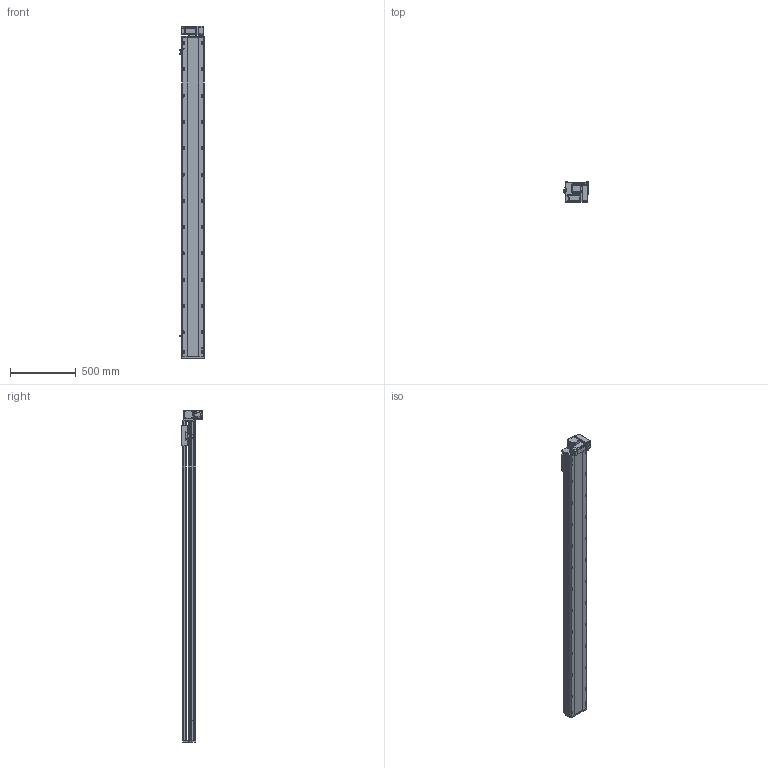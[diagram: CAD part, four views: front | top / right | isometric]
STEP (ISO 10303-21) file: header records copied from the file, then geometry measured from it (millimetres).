
FILE_DESCRIPTION (( 'STEP AP214' ), '1' );
FILE_NAME ('RTB17S-XX-2150-RM-M40-C4.STEP', '2025-12-11T08:27:27', ( '' ), ( '' ), 'SwSTEP 2.0', 'SolidWorks 2018', '' );
FILE_SCHEMA (( 'AUTOMOTIVE_DESIGN' ));
Length unit declared in the file: millimetre
Products named in the file (14): RTB17S-XX-2150-RM-M40-C4; RTB17S-RM-々湍釱蚾饜-400W^RTB17S-XX-XX-RM-M40-C4; 400W侜督萇儂^RTB17S-XX-XX-RM-M40-C4; RTB14-L-005P--轴承塑胶压盖^RTB17S-RM-皮带座装配-400W_RTB17S-XX-XX-RM-M40-C4; RTB14-L-018P^RTB17S-RM-々湍釱蚾饜-400W_RTB17S-XX-XX-RM-M40-C4; OMRON EE-SX672 传感器^RTB17S-XX-XX-RM-M40-C4; RTB14-L-008-M20--萇儂啣^RTB17S-RM-々湍釱蚾饜-400W_RTB17S-XX-XX-RM-M40-C4; RTB17S-L-004佪裝蹟譫蟀諉釱^RTB17S-XX-XX-RM-M40-C4; RTB17S-L-014-T20--々湍釱^RTB17S-RM-々湍釱蚾饜-400W_RTB17S-XX-XX-RM-M40-C4; RTH13-BL-012覜茼え俋离^RTB17S-XX-XX-RM-M40-C4; RTB14-L-017P^RTB17S-RM-々湍釱蚾饜-400W_RTB17S-XX-XX-RM-M40-C4; RTB17-R-011菁釱^RTB17S-XX-XX-RM-M40-C4; RTB17S-L-001耜醱啣^RTB17S-XX-XX-RM-M40-C4; RTB17S-L-007奻裔^RTB17S-XX-XX-RM-M40-C4
Assembly tree (16 placements, depth 3):
  RTB17S-XX-2150-RM-M40-C4
    RTB17-R-011菁釱^RTB17S-XX-XX-RM-M40-C4
    RTB17S-L-007奻裔^RTB17S-XX-XX-RM-M40-C4
    OMRON EE-SX672 传感器^RTB17S-XX-XX-RM-M40-C4  x3
    RTB17S-L-001耜醱啣^RTB17S-XX-XX-RM-M40-C4
    400W侜督萇儂^RTB17S-XX-XX-RM-M40-C4
    RTB17S-L-004佪裝蹟譫蟀諉釱^RTB17S-XX-XX-RM-M40-C4
    RTH13-BL-012覜茼え俋离^RTB17S-XX-XX-RM-M40-C4
    RTB17S-RM-々湍釱蚾饜-400W^RTB17S-XX-XX-RM-M40-C4
      RTB17S-L-014-T20--々湍釱^RTB17S-RM-々湍釱蚾饜-400W_RTB17S-XX-XX-RM-M40-C4
      RTB14-L-005P--轴承塑胶压盖^RTB17S-RM-皮带座装配-400W_RTB17S-XX-XX-RM-M40-C4
      RTB14-L-008-M20--萇儂啣^RTB17S-RM-々湍釱蚾饜-400W_RTB17S-XX-XX-RM-M40-C4
      RTB14-L-017P^RTB17S-RM-々湍釱蚾饜-400W_RTB17S-XX-XX-RM-M40-C4  x2
      RTB14-L-018P^RTB17S-RM-々湍釱蚾饜-400W_RTB17S-XX-XX-RM-M40-C4
Bounding box: 183.5 x 156.5 x 2522.5 mm (x, y, z)
Volume: 21752506.4 mm3; surface area: 2520749.9 mm2
Topology: 15 solids, 15 shells, 2301 faces, 6411 edges, 4185 vertices
Faces by surface type: plane 1080, cylinder 773, bspline 301, cone 139, torus 8
Entity records: 67241 total; most frequent: CARTESIAN_POINT 19016, ORIENTED_EDGE 9666, DIRECTION 8936, EDGE_CURVE 4833, VERTEX_POINT 3173, AXIS2_PLACEMENT_3D 3103, LINE 2730, VECTOR 2730
